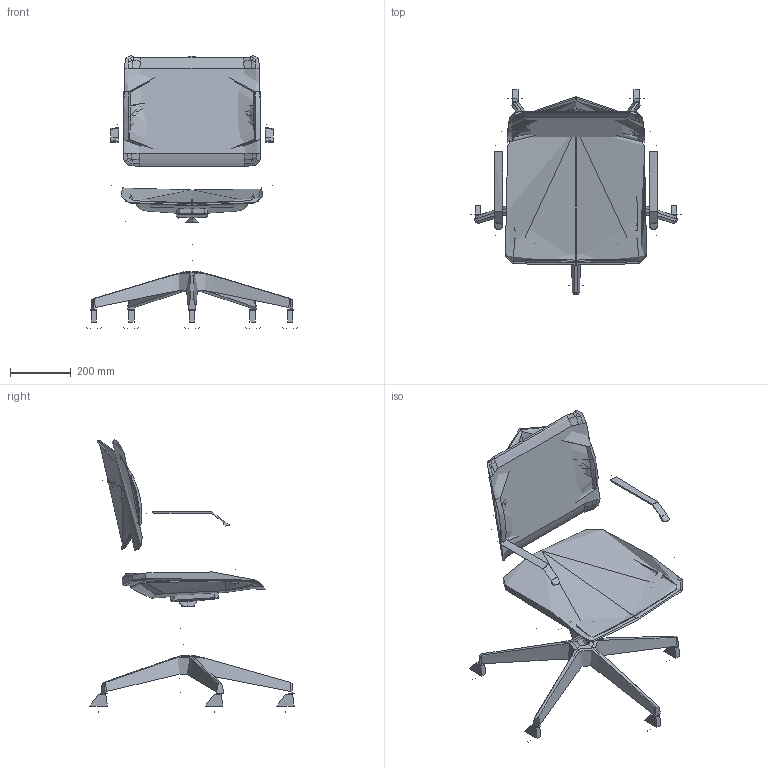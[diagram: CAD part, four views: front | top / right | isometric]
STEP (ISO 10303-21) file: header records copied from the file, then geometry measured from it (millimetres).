
FILE_DESCRIPTION(/* description */ (''),/* implementation_level */ '2;1');
FILE_NAME(/* name */ 'Arcus 251-F12GR',/* time_stamp */ '2024-12-19T14:28:40+01:00',/* author */ (''),/* organization */ (''),/* preprocessor_version */ 'ST-DEVELOPER v16.5',/* originating_system */ 'Rhino 7.37',/* authorisation */ '');
FILE_SCHEMA (('CONFIG_CONTROL_DESIGN'));
Length unit declared in the file: millimetre
Products named in the file (1): Document
Bounding box: 696.72 x 672.99 x 900.34 mm (x, y, z)
Volume: 834831 mm3; surface area: 1715823.7 mm2
Topology: 9 solids, 48 shells, 448 faces, 1065 edges, 656 vertices
Faces by surface type: bspline 288, plane 106, cylinder 54
Full cylindrical faces by diameter (mm): 8 x1, 11 x5, 22 x8, 28 x1, 46 x1, 50 x1, 57 x1, 60 x8
Entity records: 63769 total; most frequent: CARTESIAN_POINT 57136, ORIENTED_EDGE 1950, EDGE_CURVE 1060, B_SPLINE_CURVE_WITH_KNOTS 724, VERTEX_POINT 656, EDGE_LOOP 453, ADVANCED_FACE 448, FACE_OUTER_BOUND 448
